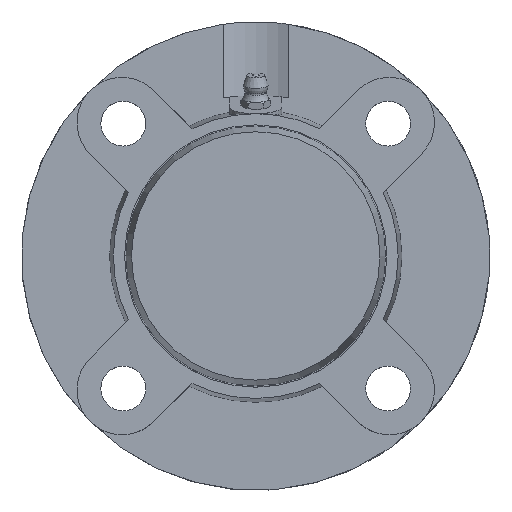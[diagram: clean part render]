
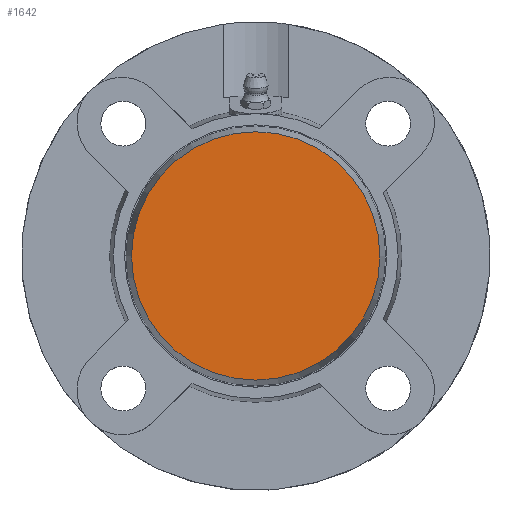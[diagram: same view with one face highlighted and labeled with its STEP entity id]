
A CAD part, top view. The second image highlights one B-rep face of the part: STEP entity #1642.
In plain terms, the highlighted planar face has unit normal (0, 0, 1).
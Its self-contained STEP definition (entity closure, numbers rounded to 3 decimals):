
#1626=CARTESIAN_POINT('',(0.0,16.573,23.));
#1627=DIRECTION('',(0.0,0.0,1.0));
#1628=DIRECTION('',(1.0,0.0,0.0));
#1629=AXIS2_PLACEMENT_3D('',#1626,#1627,#1628);
#1630=PLANE('',#1629);
#1631=CARTESIAN_POINT('',(0.0,33.147,23.));
#1632=VERTEX_POINT('',#1631);
#1633=CARTESIAN_POINT('',(0.0,0.,23.));
#1634=DIRECTION('',(0.0,0.0,-1.0));
#1635=DIRECTION('',(0.0,1.0,0.0));
#1636=AXIS2_PLACEMENT_3D('',#1633,#1634,#1635);
#1637=CIRCLE('',#1636,33.147);
#1638=EDGE_CURVE('',#1632,#1632,#1637,.T.);
#1639=ORIENTED_EDGE('',*,*,#1638,.F.);
#1640=EDGE_LOOP('',(#1639));
#1641=FACE_OUTER_BOUND('',#1640,.T.);
#1642=ADVANCED_FACE('',(#1641),#1630,.T.);
